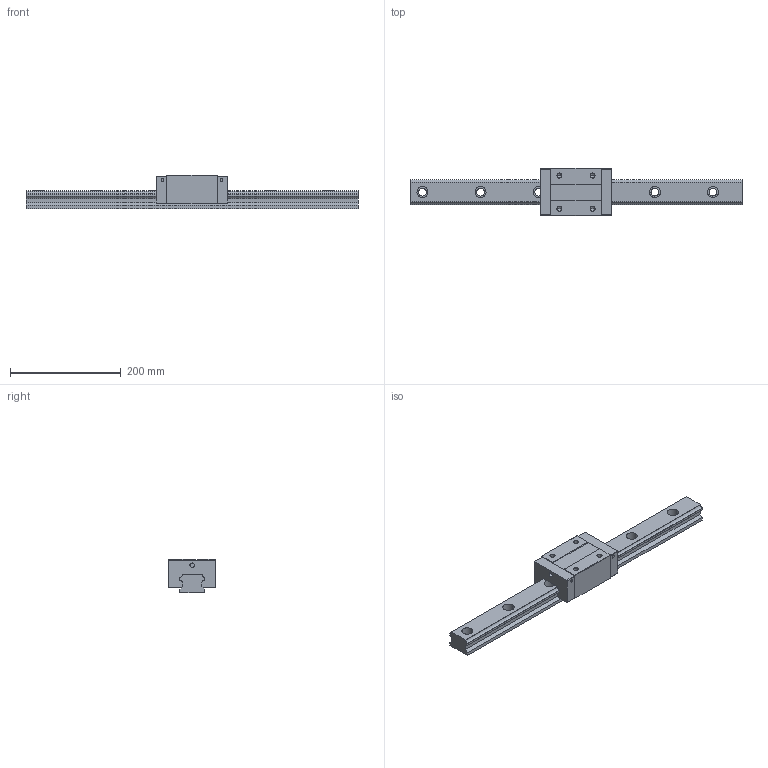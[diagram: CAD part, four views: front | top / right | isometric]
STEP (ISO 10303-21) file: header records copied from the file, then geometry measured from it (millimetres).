
FILE_DESCRIPTION (( 'STEP AP203' ), '1' );
FILE_NAME ('TRS45VN-SU.STEP', '2024-06-26T05:44:47', ( '' ), ( '' ), 'SwSTEP 2.0', 'SolidWorks 2022', '' );
FILE_SCHEMA (( 'CONFIG_CONTROL_DESIGN' ));
Length unit declared in the file: millimetre
Products named in the file (1): TRS45VN-SU
Bounding box: 600 x 85.5 x 60 mm (x, y, z)
Volume: 1150291.4 mm3; surface area: 158324 mm2
Topology: 2 solids, 2 shells, 180 faces, 472 edges, 304 vertices
Faces by surface type: plane 84, cylinder 80, cone 16
Entity records: 5607 total; most frequent: DIRECTION 994, CARTESIAN_POINT 949, ORIENTED_EDGE 928, EDGE_CURVE 464, AXIS2_PLACEMENT_3D 349, VERTEX_POINT 304, VECTOR 296, LINE 296
